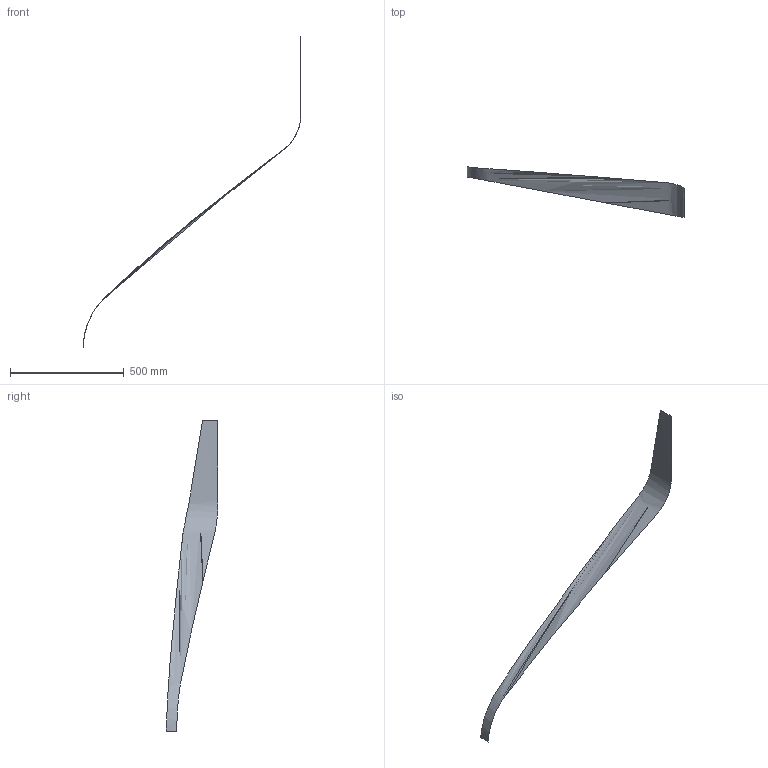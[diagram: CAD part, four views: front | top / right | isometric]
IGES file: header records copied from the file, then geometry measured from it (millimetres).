
Global section: file name: C:/temp/387.igs; native system: Rhinoceros ( Oct 29 2001 ); preprocessor: Trout Lake IGES 012 Oct 29 2001; author: Roman; date: 021227.084838; units: millimetre
Bounding box: 954.78 x 227.21 x 1364.23 mm (x, y, z)
Surface area: 166995 mm2 (no closed solid volume)
Topology: 0 solids, 0 shells, 1 faces, 7 edges, 7 vertices
Faces by surface type: bspline 1
